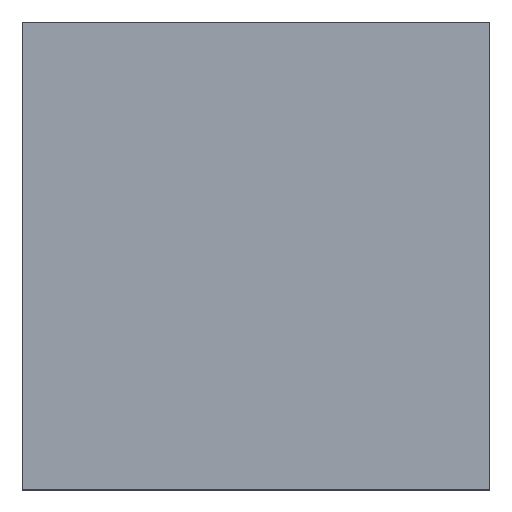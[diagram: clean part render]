
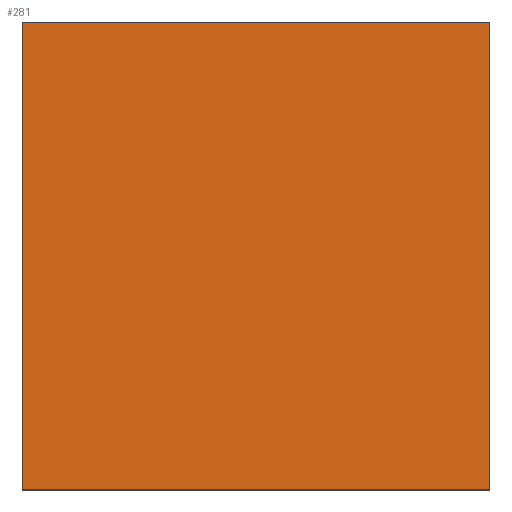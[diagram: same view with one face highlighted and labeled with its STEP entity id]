
A CAD part, top view. The second image highlights one B-rep face of the part: STEP entity #281.
In plain terms, the highlighted planar face has unit normal (0, 0, 1).
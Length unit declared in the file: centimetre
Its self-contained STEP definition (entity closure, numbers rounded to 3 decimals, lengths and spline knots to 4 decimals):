
#11 = ORIENTED_EDGE ( 'NONE', *, *, #351, .T. ) ;
#20 = DIRECTION ( 'NONE',  ( 1., 0., 0. ) ) ;
#76 = FACE_OUTER_BOUND ( 'NONE', #236, .T. ) ;
#84 = VERTEX_POINT ( 'NONE', #296 ) ;
#109 = DIRECTION ( 'NONE',  ( 0., 1., 0. ) ) ;
#114 = LINE ( 'NONE', #397, #118 ) ;
#118 = VECTOR ( 'NONE', #328, 100. ) ;
#121 = ORIENTED_EDGE ( 'NONE', *, *, #227, .T. ) ;
#150 = LINE ( 'NONE', #309, #284 ) ;
#196 = ORIENTED_EDGE ( 'NONE', *, *, #263, .T. ) ;
#227 = EDGE_CURVE ( 'NONE', #84, #427, #114, .T. ) ;
#231 = VECTOR ( 'NONE', #20, 100. ) ;
#232 = DIRECTION ( 'NONE',  ( 1., 0., 0. ) ) ;
#236 = EDGE_LOOP ( 'NONE', ( #121, #347, #196, #11 ) ) ;
#247 = CARTESIAN_POINT ( 'NONE',  ( 1000., 0., 1000. ) ) ;
#263 = EDGE_CURVE ( 'NONE', #412, #334, #331, .T. ) ;
#273 = DIRECTION ( 'NONE',  ( 0., 0., 1. ) ) ;
#278 = CARTESIAN_POINT ( 'NONE',  ( 0., 0., 1000. ) ) ;
#281 = ADVANCED_FACE ( 'NONE', ( #76 ), #307, .T. ) ;
#284 = VECTOR ( 'NONE', #377, 100. ) ;
#296 = CARTESIAN_POINT ( 'NONE',  ( 0., 1000., 1000. ) ) ;
#305 = CARTESIAN_POINT ( 'NONE',  ( 0., 0., 1000. ) ) ;
#307 = PLANE ( 'NONE',  #458 ) ;
#309 = CARTESIAN_POINT ( 'NONE',  ( 0., 1000., 1000. ) ) ;
#311 = CARTESIAN_POINT ( 'NONE',  ( 1000., 1000., 1000. ) ) ;
#320 = VECTOR ( 'NONE', #109, 100. ) ;
#328 = DIRECTION ( 'NONE',  ( 0., -1., 0. ) ) ;
#331 = LINE ( 'NONE', #371, #320 ) ;
#334 = VERTEX_POINT ( 'NONE', #311 ) ;
#341 = LINE ( 'NONE', #305, #231 ) ;
#347 = ORIENTED_EDGE ( 'NONE', *, *, #389, .T. ) ;
#351 = EDGE_CURVE ( 'NONE', #334, #84, #150, .T. ) ;
#371 = CARTESIAN_POINT ( 'NONE',  ( 1000., 1000., 1000. ) ) ;
#377 = DIRECTION ( 'NONE',  ( -1., 0., 0. ) ) ;
#389 = EDGE_CURVE ( 'NONE', #427, #412, #341, .T. ) ;
#397 = CARTESIAN_POINT ( 'NONE',  ( 0., 1000., 1000. ) ) ;
#412 = VERTEX_POINT ( 'NONE', #247 ) ;
#427 = VERTEX_POINT ( 'NONE', #455 ) ;
#455 = CARTESIAN_POINT ( 'NONE',  ( 0., 0., 1000. ) ) ;
#458 = AXIS2_PLACEMENT_3D ( 'NONE', #278, #273, #232 ) ;
